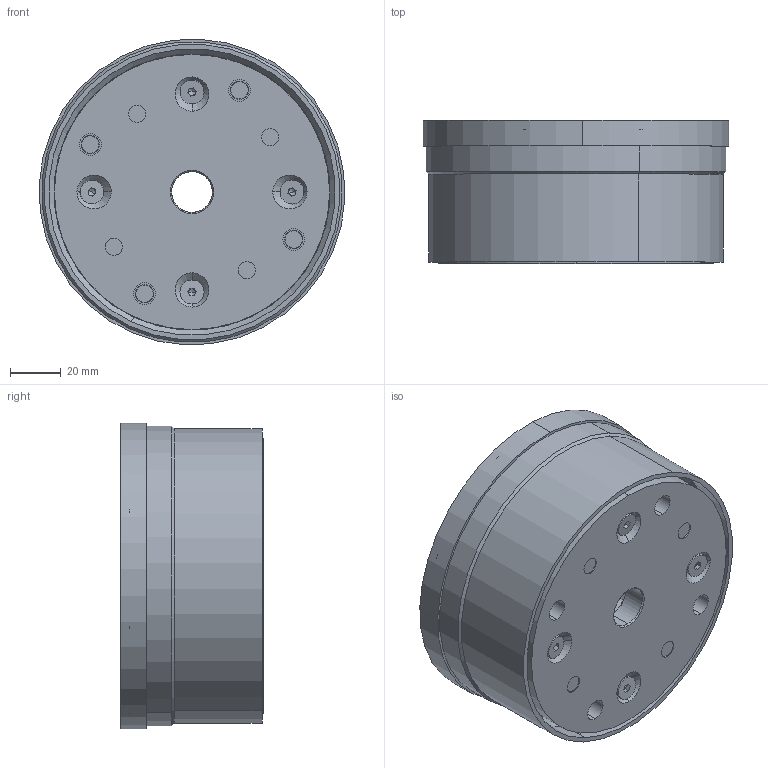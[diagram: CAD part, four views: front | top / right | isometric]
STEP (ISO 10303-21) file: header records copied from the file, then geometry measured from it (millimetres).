
FILE_DESCRIPTION (( 'STEP AP203' ), '1' );
FILE_NAME ('BS-140-108.STEP', '2024-03-28T11:52:23', ( '' ), ( '' ), 'SwSTEP 2.0', 'SolidWorks 2020', '' );
FILE_SCHEMA (( 'CONFIG_CONTROL_DESIGN' ));
Length unit declared in the file: millimetre
Products named in the file (1): BS-140-108
Bounding box: 119.89 x 56 x 119.89 mm (x, y, z)
Surface area: 79275.4 mm2 (no closed solid volume)
Topology: 0 solids, 33 shells, 253 faces, 814 edges, 534 vertices
Faces by surface type: plane 109, cylinder 82, cone 46, torus 16
Entity records: 8899 total; most frequent: CARTESIAN_POINT 1662, DIRECTION 1632, ORIENTED_EDGE 1236, EDGE_CURVE 790, AXIS2_PLACEMENT_3D 616, VERTEX_POINT 534, LINE 400, VECTOR 400
